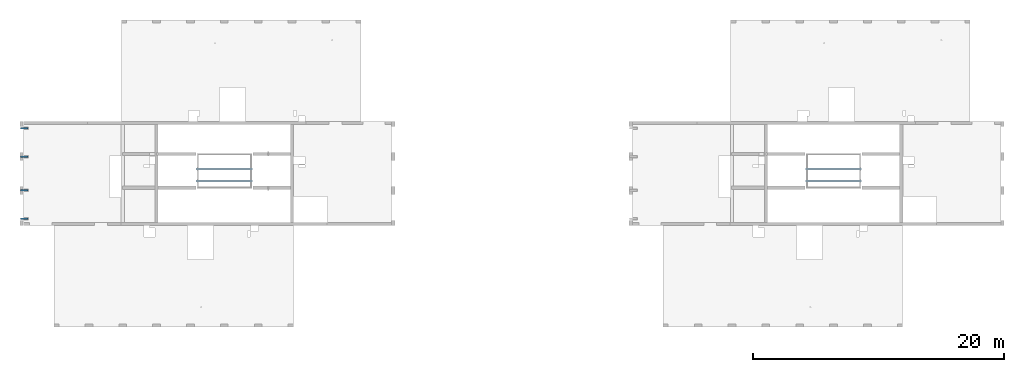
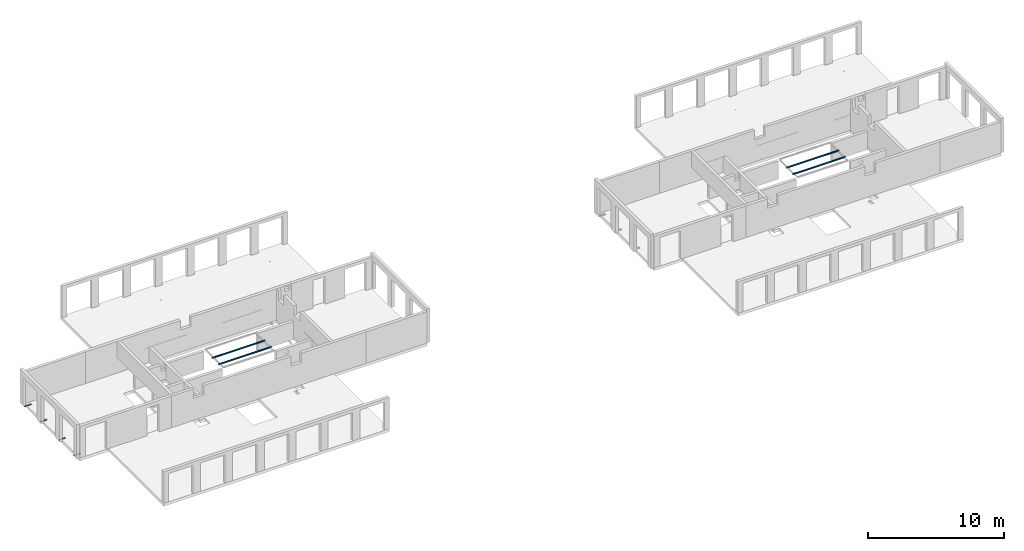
# One storey, part 1 of 6: 8 beams.
"""IFC2X3 building model written with IfcOpenShell, lengths in millimetres."""

from ifc_helpers import new_model, entity, si_unit, converted_unit, derived_unit, direction, frame, frame_2d, origin, origin_2d_with_axis, place, context, subcontext, project, spatial, rectangle, i_section, extrude, source, transform, mapped, material, type_object, type_shapes, element, save


model = new_model("IFC2X3")

# Units and contexts
model_context = context("Model", 3, precision=0.01, world=origin(), true_north=direction((6.12303176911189e-17, 1.0)))
body_context = subcontext(model_context, "Body", "Model", "MODEL_VIEW")
ifc_project = project(units=[si_unit("LENGTHUNIT", "METRE", prefix="MILLI"), si_unit("AREAUNIT", "SQUARE_METRE"), si_unit("VOLUMEUNIT", "CUBIC_METRE"), converted_unit("PLANEANGLEUNIT", "DEGREE", entity("IfcRatioMeasure", 0.0174532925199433), si_unit("PLANEANGLEUNIT", "RADIAN"), dimensions=[0, 0, 0, 0, 0, 0, 0]), si_unit("MASSUNIT", "GRAM", prefix="KILO"), derived_unit("MASSDENSITYUNIT", [(si_unit("MASSUNIT", "GRAM", prefix="KILO"), 1), (si_unit("LENGTHUNIT", "METRE"), -3)]), si_unit("TIMEUNIT", "SECOND"), si_unit("FREQUENCYUNIT", "HERTZ"), si_unit("THERMODYNAMICTEMPERATUREUNIT", "DEGREE_CELSIUS"), derived_unit("THERMALTRANSMITTANCEUNIT", [(si_unit("MASSUNIT", "GRAM", prefix="KILO"), 1), (si_unit("THERMODYNAMICTEMPERATUREUNIT", "KELVIN"), -1), (si_unit("TIMEUNIT", "SECOND"), -3)]), derived_unit("VOLUMETRICFLOWRATEUNIT", [(si_unit("LENGTHUNIT", "METRE"), 3), (si_unit("TIMEUNIT", "SECOND"), -1)]), si_unit("ELECTRICCURRENTUNIT", "AMPERE"), si_unit("ELECTRICVOLTAGEUNIT", "VOLT"), si_unit("POWERUNIT", "WATT"), si_unit("FORCEUNIT", "NEWTON", prefix="KILO"), si_unit("ILLUMINANCEUNIT", "LUX"), si_unit("LUMINOUSFLUXUNIT", "LUMEN"), si_unit("LUMINOUSINTENSITYUNIT", "CANDELA"), derived_unit("USERDEFINED", [(si_unit("MASSUNIT", "GRAM", prefix="KILO"), -1), (si_unit("LENGTHUNIT", "METRE"), -2), (si_unit("TIMEUNIT", "SECOND"), 3), (si_unit("LUMINOUSFLUXUNIT", "LUMEN"), 1)]), derived_unit("LINEARVELOCITYUNIT", [(si_unit("LENGTHUNIT", "METRE"), 1), (si_unit("TIMEUNIT", "SECOND"), -1)]), si_unit("PRESSUREUNIT", "PASCAL"), derived_unit("USERDEFINED", [(si_unit("LENGTHUNIT", "METRE"), -2), (si_unit("MASSUNIT", "GRAM", prefix="KILO"), 1), (si_unit("TIMEUNIT", "SECOND"), -2)])], contexts=[model_context])

# Site, building, storey
site_placement = place(None, origin())
site = spatial("IfcSite", under=ifc_project, at=site_placement, Name="Default", CompositionType="ELEMENT")
building_placement = place(site_placement, origin())
building = spatial("IfcBuilding", under=site, at=building_placement, Name="niet gebruiken", CompositionType="ELEMENT")
storey_placement = place(building_placement, frame((0.0, 0.0, 66160.0)))
storey = spatial("IfcBuildingStorey", under=building, at=storey_placement, Name="22 tweeëntwintigste verdieping", CompositionType="ELEMENT", Elevation=66160.0)

# Beams
ifc_material = material(Name="NLRS_h2_staal")
beam_type_1 = type_object("IfcBeamType", Name="NLRS_28.11_SF_WPB_stalen ligger HEB_gen:ligger HEB 100", PredefinedType="BEAM")
beam_1_placement = place(storey_placement, frame((40923.2963841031, 41363.0, 1260.0)))
element("IfcBeam", 1, at=beam_1_placement, inside=storey, type_object=beam_type_1, material=ifc_material, Name="NLRS_28.11_SF_WPB_stalen ligger HEB_gen:ligger HEB 100", ObjectType="NLRS_28.11_SF_WPB_stalen ligger HEB_gen:ligger HEB 100", context=body_context, shape_type="SweptSolid", body=[
    extrude(i_section(OverallWidth=100.000000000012, OverallDepth=99.9999999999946, WebThickness=5.99999999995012, FlangeThickness=9.99999999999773, FilletRadius=11.9999999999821, at=frame_2d((0.0, 8.66506866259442e-12), x_axis=(0.0, 1.0))), frame((25.0, 0.0, 50.0), z_axis=(1.0, 0.0, 0.0), x_axis=(0.0, 0.0, -1.0)), (0.0, 0.0, 1.0), 4501.70361589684),
])
beam_2_placement = place(storey_placement, frame((40925.0, 40413.0, 1260.0)))
element("IfcBeam", 2, at=beam_2_placement, inside=storey, type_object=beam_type_1, material=ifc_material, Name="NLRS_28.11_SF_WPB_stalen ligger HEB_gen:ligger HEB 100", ObjectType="NLRS_28.11_SF_WPB_stalen ligger HEB_gen:ligger HEB 100", context=body_context, shape_type="SweptSolid", body=[
    extrude(i_section(OverallWidth=100.000000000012, OverallDepth=99.9999999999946, WebThickness=5.99999999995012, FlangeThickness=9.99999999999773, FilletRadius=11.9999999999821, at=frame_2d((0.0, 0.0), x_axis=(0.0, 1.0))), frame((25.0, 0.0, 50.0), z_axis=(1.0, 0.0, 0.0), x_axis=(0.0, 0.0, -1.0)), (0.0, 0.0, 1.0), 4499.99999999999),
])
beam_3_placement = place(storey_placement, frame((89523.2963841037, 41363.0, 1260.0)))
element("IfcBeam", 3, at=beam_3_placement, inside=storey, type_object=beam_type_1, material=ifc_material, Name="NLRS_28.11_SF_WPB_stalen ligger HEB_gen:ligger HEB 100", ObjectType="NLRS_28.11_SF_WPB_stalen ligger HEB_gen:ligger HEB 100", context=body_context, shape_type="SweptSolid", body=[
    extrude(i_section(OverallWidth=100.000000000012, OverallDepth=99.9999999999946, WebThickness=5.99999999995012, FlangeThickness=9.99999999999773, FilletRadius=11.9999999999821, at=frame_2d((0.0, 0.0), x_axis=(0.0, 1.0))), frame((25.0, 0.0, 50.0), z_axis=(1.0, 0.0, 0.0), x_axis=(0.0, 0.0, -1.0)), (0.0, 0.0, 1.0), 4501.70361589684),
])
beam_4_placement = place(storey_placement, frame((89525.0, 40413.0, 1260.0)))
element("IfcBeam", 4, at=beam_4_placement, inside=storey, type_object=beam_type_1, material=ifc_material, Name="NLRS_28.11_SF_WPB_stalen ligger HEB_gen:ligger HEB 100", ObjectType="NLRS_28.11_SF_WPB_stalen ligger HEB_gen:ligger HEB 100", context=body_context, shape_type="SweptSolid", body=[
    extrude(i_section(OverallWidth=100.000000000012, OverallDepth=99.9999999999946, WebThickness=5.99999999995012, FlangeThickness=9.99999999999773, FilletRadius=11.9999999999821, at=frame_2d((0.0, 0.0), x_axis=(0.0, 1.0))), frame((25.0, 0.0, 50.0), z_axis=(1.0, 0.0, 0.0), x_axis=(0.0, 0.0, -1.0)), (0.0, 0.0, 1.0), 4499.99999999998),
])
beam_type_2 = type_object("IfcBeamType", Name="ligger stripstaal RECT_120x10", PredefinedType="BEAM", material=ifc_material)
shared_shape_1 = source(origin(), body_context, "Body", "SweptSolid", [
    extrude(rectangle(XDim=599.999999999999, YDim=120.0, at=origin_2d_with_axis()), frame((0.0, 0.0, -5.0), z_axis=(0.0, 0.0, 1.0), x_axis=(-1.0, 0.0, 0.0)), (0.0, 0.0, 1.0), 9.99999999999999),
    extrude(rectangle(XDim=599.999999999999, YDim=120.0, at=origin_2d_with_axis()), frame((0.0, 0.0, -5.0), z_axis=(0.0, 0.0, 1.0), x_axis=(-1.0, 0.0, 0.0)), (0.0, 0.0, 1.0), 9.99999999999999),
])
type_shapes(beam_type_2, [shared_shape_1])
for number, where, name in (
    (5, (27235.0, 42356.0, -115.0), "NLRS_28.11_SF_WPB_stalen ligger stripstaal_gen:ligger stripstaal RECT_120x10"),
    (6, (27235.0, 39656.0, -115.0), "NLRS_28.11_SF_WPB_stalen ligger stripstaal_gen:ligger stripstaal RECT_120x10"),
    (7, (27235.0, 37386.0, -115.0), "NLRS_28.11_SF_WPB_stalen ligger stripstaal_gen:ligger stripstaal RECT_120x10"),
):
    element("IfcBeam", number, at=place(storey_placement, frame(where)), inside=storey, type_object=beam_type_2, material=ifc_material, Name=name, ObjectType="ligger stripstaal RECT_120x10", context=body_context, shape_type="MappedRepresentation", body=[
        mapped(shared_shape_1, transform((0.0, 0.0, 0.0), scale=1.0)),
    ])
beam_type_3 = type_object("IfcBeamType", Name="ligger stripstaal RECT_120x10", PredefinedType="BEAM", material=ifc_material)
shared_shape_2 = source(origin(), body_context, "Body", "SweptSolid", [
    extrude(rectangle(XDim=120.0, YDim=600.000000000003, at=origin_2d_with_axis()), frame((0.0, 0.0, -5.0), z_axis=(0.0, 0.0, 1.0), x_axis=(0.0, 1.0, 0.0)), (0.0, 0.0, 1.0), 9.99999999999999),
    extrude(rectangle(XDim=120.0, YDim=600.000000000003, at=origin_2d_with_axis()), frame((0.0, 0.0, -5.0), z_axis=(0.0, 0.0, 1.0), x_axis=(0.0, 1.0, 0.0)), (0.0, 0.0, 1.0), 9.99999999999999),
])
type_shapes(beam_type_3, [shared_shape_2])
beam_5_placement = place(storey_placement, frame((27235.0, 44626.0, -115.0)))
element("IfcBeam", 8, at=beam_5_placement, inside=storey, type_object=beam_type_3, material=ifc_material, Name="NLRS_28.11_SF_WPB_stalen ligger stripstaal_gen:ligger stripstaal RECT_120x10", ObjectType="ligger stripstaal RECT_120x10", context=body_context, shape_type="MappedRepresentation", body=[
    mapped(shared_shape_2, transform((0.0, 0.0, 0.0), scale=1.0)),
])

save(model, "model.ifc")
